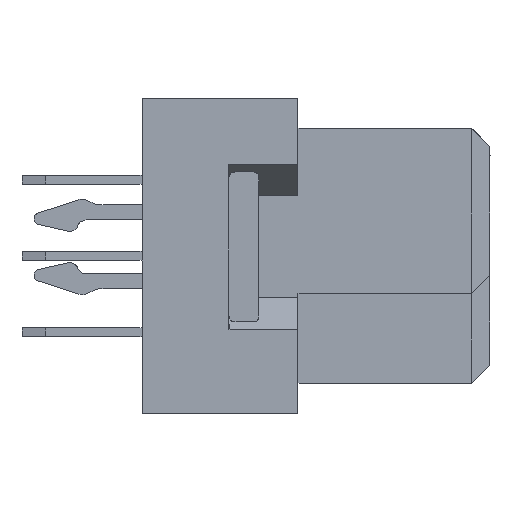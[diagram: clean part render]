
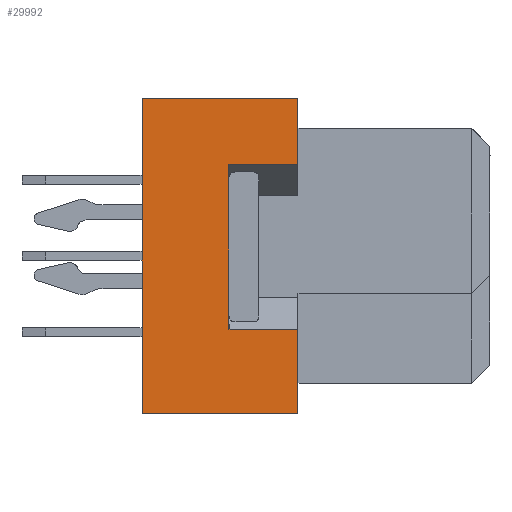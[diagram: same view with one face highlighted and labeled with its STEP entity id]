
A CAD part, left-side view. The second image highlights one B-rep face of the part: STEP entity #29992.
In plain terms, the highlighted planar face has unit normal (-1, 0, 0).
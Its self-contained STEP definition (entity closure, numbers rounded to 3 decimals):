
#7497 = VECTOR ( 'NONE', #10432, 1000. ) ;
#7502 = VECTOR ( 'NONE', #10655, 1000. ) ;
#7517 = VECTOR ( 'NONE', #10688, 1000. ) ;
#7563 = VECTOR ( 'NONE', #10779, 1000. ) ;
#7572 = VECTOR ( 'NONE', #10800, 1000. ) ;
#7573 = VECTOR ( 'NONE', #10803, 1000. ) ;
#7574 = VECTOR ( 'NONE', #10806, 1000. ) ;
#7575 = VECTOR ( 'NONE', #10809, 1000. ) ;
#8067 = VERTEX_POINT ( 'NONE', #35560 ) ;
#8573 = VERTEX_POINT ( 'NONE', #35795 ) ;
#8588 = VERTEX_POINT ( 'NONE', #35805 ) ;
#8694 = VERTEX_POINT ( 'NONE', #35858 ) ;
#8924 = VERTEX_POINT ( 'NONE', #35948 ) ;
#10306 = VERTEX_POINT ( 'NONE', #36274 ) ;
#10340 = VERTEX_POINT ( 'NONE', #36294 ) ;
#10359 = VERTEX_POINT ( 'NONE', #36306 ) ;
#10427 = LINE ( 'NONE', #10430, #7497 ) ;
#10430 = CARTESIAN_POINT ( 'NONE',  ( -81.377, 11.021, -2.42 ) ) ;
#10432 = DIRECTION ( 'NONE',  ( 0., 1., 0. ) ) ;
#10653 = LINE ( 'NONE', #10654, #7502 ) ;
#10654 = CARTESIAN_POINT ( 'NONE',  ( -81.377, 13.321, -5.22 ) ) ;
#10655 = DIRECTION ( 'NONE',  ( 0., 0., 1. ) ) ;
#10673 = LINE ( 'NONE', #10687, #7517 ) ;
#10687 = CARTESIAN_POINT ( 'NONE',  ( -81.377, 11.021, 3.08 ) ) ;
#10688 = DIRECTION ( 'NONE',  ( 0., -1., 0. ) ) ;
#10777 = LINE ( 'NONE', #10778, #7563 ) ;
#10778 = CARTESIAN_POINT ( 'NONE',  ( -81.377, 11.021, -5.22 ) ) ;
#10779 = DIRECTION ( 'NONE',  ( 0., 0., 1. ) ) ;
#10798 = LINE ( 'NONE', #10799, #7572 ) ;
#10799 = CARTESIAN_POINT ( 'NONE',  ( -81.377, 11.021, 2.03 ) ) ;
#10800 = DIRECTION ( 'NONE',  ( 0., 0., 1. ) ) ;
#10801 = LINE ( 'NONE', #10802, #7573 ) ;
#10802 = CARTESIAN_POINT ( 'NONE',  ( -81.377, 11.021, 5.28 ) ) ;
#10803 = DIRECTION ( 'NONE',  ( 0., -1., 0. ) ) ;
#10804 = LINE ( 'NONE', #10805, #7574 ) ;
#10805 = CARTESIAN_POINT ( 'NONE',  ( -81.377, 16.221, -5.22 ) ) ;
#10806 = DIRECTION ( 'NONE',  ( 0., 0., 1. ) ) ;
#10807 = LINE ( 'NONE', #10808, #7575 ) ;
#10808 = CARTESIAN_POINT ( 'NONE',  ( -81.377, 11.021, -5.22 ) ) ;
#10809 = DIRECTION ( 'NONE',  ( 0., -1., 0. ) ) ;
#12550 = AXIS2_PLACEMENT_3D ( 'NONE', #16692, #16698, #16699 ) ;
#16690 = PLANE ( 'NONE',  #12550 ) ;
#16692 = CARTESIAN_POINT ( 'NONE',  ( -81.377, 11.021, -5.22 ) ) ;
#16696 = FACE_OUTER_BOUND ( 'NONE', #22038, .T. ) ;
#16698 = DIRECTION ( 'NONE',  ( -1., 0., 0. ) ) ;
#16699 = DIRECTION ( 'NONE',  ( 0., 0., 1. ) ) ;
#22038 = EDGE_LOOP ( 'NONE', ( #31289, #31290, #31291, #31292, #31293, #31294, #31295, #31296 ) ) ;
#28942 = EDGE_CURVE ( 'NONE', #8694, #8924, #10427, .T. ) ;
#28946 = EDGE_CURVE ( 'NONE', #8924, #8588, #10653, .T. ) ;
#28957 = EDGE_CURVE ( 'NONE', #8588, #8573, #10673, .T. ) ;
#28987 = EDGE_CURVE ( 'NONE', #8067, #8694, #10777, .T. ) ;
#28994 = EDGE_CURVE ( 'NONE', #8573, #10306, #10798, .T. ) ;
#28995 = EDGE_CURVE ( 'NONE', #10359, #10306, #10801, .T. ) ;
#28996 = EDGE_CURVE ( 'NONE', #10340, #10359, #10804, .T. ) ;
#28997 = EDGE_CURVE ( 'NONE', #10340, #8067, #10807, .T. ) ;
#29992 = ADVANCED_FACE ( 'NONE', ( #16696 ), #16690, .T. ) ;
#31289 = ORIENTED_EDGE ( 'NONE', *, *, #28942, .T. ) ;
#31290 = ORIENTED_EDGE ( 'NONE', *, *, #28946, .T. ) ;
#31291 = ORIENTED_EDGE ( 'NONE', *, *, #28957, .T. ) ;
#31292 = ORIENTED_EDGE ( 'NONE', *, *, #28994, .T. ) ;
#31293 = ORIENTED_EDGE ( 'NONE', *, *, #28995, .F. ) ;
#31294 = ORIENTED_EDGE ( 'NONE', *, *, #28996, .F. ) ;
#31295 = ORIENTED_EDGE ( 'NONE', *, *, #28997, .T. ) ;
#31296 = ORIENTED_EDGE ( 'NONE', *, *, #28987, .T. ) ;
#35560 = CARTESIAN_POINT ( 'NONE',  ( -81.377, 11.021, -5.22 ) ) ;
#35795 = CARTESIAN_POINT ( 'NONE',  ( -81.377, 11.021, 3.08 ) ) ;
#35805 = CARTESIAN_POINT ( 'NONE',  ( -81.377, 13.321, 3.08 ) ) ;
#35858 = CARTESIAN_POINT ( 'NONE',  ( -81.377, 11.021, -2.42 ) ) ;
#35948 = CARTESIAN_POINT ( 'NONE',  ( -81.377, 13.321, -2.42 ) ) ;
#36274 = CARTESIAN_POINT ( 'NONE',  ( -81.377, 11.021, 5.28 ) ) ;
#36294 = CARTESIAN_POINT ( 'NONE',  ( -81.377, 16.221, -5.22 ) ) ;
#36306 = CARTESIAN_POINT ( 'NONE',  ( -81.377, 16.221, 5.28 ) ) ;
